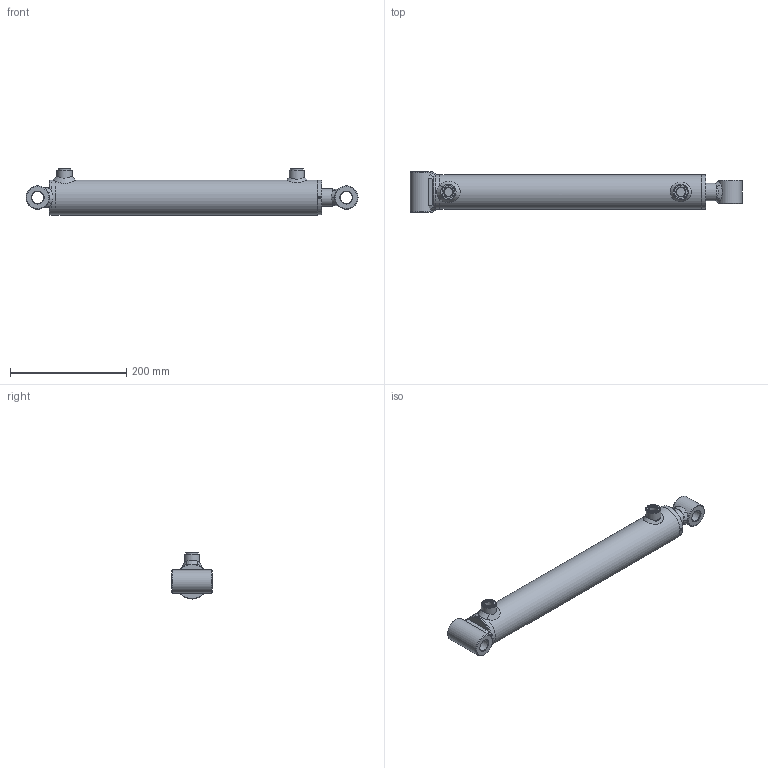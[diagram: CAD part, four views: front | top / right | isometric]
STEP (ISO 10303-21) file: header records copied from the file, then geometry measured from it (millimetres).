
FILE_DESCRIPTION( ( 'Unknown' ), '1' );
FILE_NAME( 'E:/LIBRERIA_3d/CILINDRI/HM2/HM22300350.stp', 'Unknown', ( 'Unknown' ), ( 'Unknown' ), 'PSStep 17.0.49', 'Unknown', ' ' );
FILE_SCHEMA( ( 'AUTOMOTIVE_DESIGN { 1 0 10303 214 1 1 1 1 }' ) );
Length unit declared in the file: millimetre
Products named in the file (26): CT00050020; CG06005030; STL2500350-oa6; Saldatura d'angolo 1-oa4; FTM2500350-oa5; CBSC220600; HM02300350; CF00050060; CDA0002015; Saldatura con preparazione 1-oa2; Saldatura d'angolo 1-oa3; CBS0600000; APG0600000; SBL3020350; Assem1; Saldatura d'angolo 1-oa0; Saldatura d'angolo 2-oa1; CB20040040; CB20040070
Assembly tree (18 placements, depth 4):
  Saldatura d'angolo 1-oa4
  Saldatura d'angolo 1-oa4
  Saldatura d'angolo 1-oa3
  Saldatura d'angolo 1-oa3
  Assem1
    CB20040040
    CB20040070
    HM02300350
      CF00050060
      CDA0002015
      Saldatura con preparazione 1-oa2
      Saldatura con preparazione 1-oa2
      CBS0600000
      APG0600000  x2
      SBL3020350
      CG06005030
        CG06005030
      CT00050020
        CT00050020
      STL2500350-oa6
        FTM2500350-oa5
        CBSC220600
Bounding box: 570 x 70 x 79 mm (x, y, z)
Volume: 961247.2 mm3; surface area: 301525.9 mm2
Topology: 22 solids, 22 shells, 325 faces, 659 edges, 383 vertices
Faces by surface type: bspline 114, plane 74, cylinder 59, cone 40, torus 38
Full cylindrical faces by diameter (mm): 4 x2, 4.25 x1, 5 x2, 7 x2, 14.95 x2, 16 x2, 16.6 x2, 19.4 x1, 20 x5, 20.25 x2, 22 x2, 24.5 x1, 26 x2, 30 x5, 32 x1, 33 x1, 34 x1, 38.6 x1, 40 x3, 45 x1, 45.41 x2, 48.66 x2, 49.9 x1, 50 x1, 50.3 x1, 50.5 x1, 50.6 x1, 51 x1, 52 x3, 52.5 x1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
Entity records: 18862 total; most frequent: CARTESIAN_POINT 11086, ORIENTED_EDGE 924, DIRECTION 850, EDGE_LOOP 494, EDGE_CURVE 462, FACE_OUTER_BOUND 412, AXIS2_PLACEMENT_3D 407, VERTEX_POINT 333
